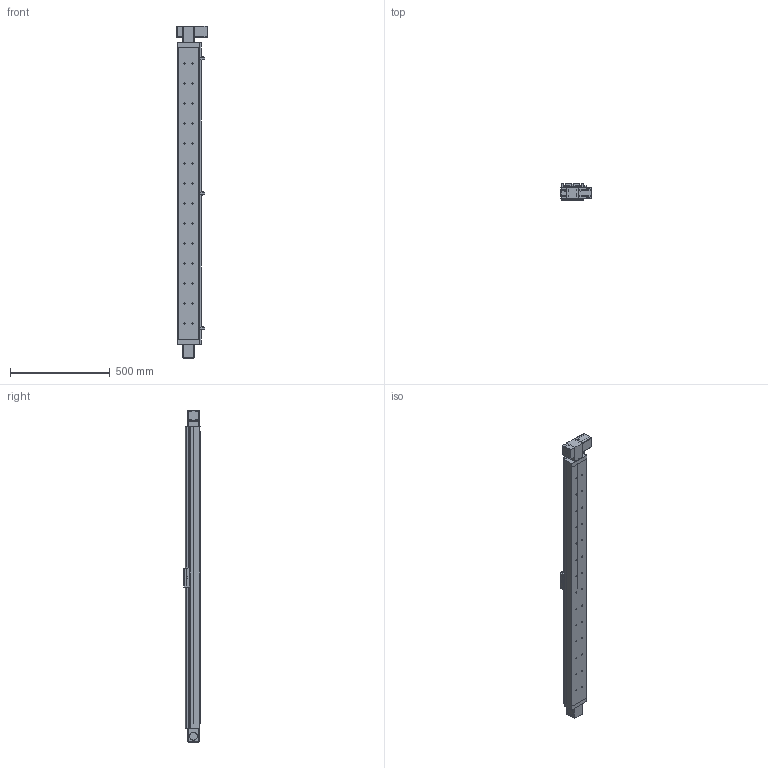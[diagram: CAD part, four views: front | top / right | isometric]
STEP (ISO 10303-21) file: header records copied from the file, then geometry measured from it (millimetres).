
FILE_DESCRIPTION((''),'2;1');
FILE_NAME('E:\uia actuator\UIA actuator 3d- 2015\Belt drive actuator\UIA110BR12(15)DC\UIA110BR12(15)DC-STEP FILE\UIA110BR12(15) stp file 13May16\UIA110BR12(15)DC-1350-M23-P13-C10-S.stp','2016-05-16T09:36:07',('h029'),(''),'Autodesk Inventor 11','Autodesk Inventor 11','');
FILE_SCHEMA(('AUTOMOTIVE_DESIGN { 1 0 10303 214 1 1 1 1 }'));
Length unit declared in the file: millimetre
Products named in the file (11): UIA110BR12(15)DC-1350; UIA110BR12(15)DC-1350-body; UIA110BR12(15)DC-1350-Sensor rail; UIA110B-Carriage; UIA110B- Sensor Flag; UIA110B-Cover; SOH-32C; SOH-32C-3; SOH-32C-1; SOH-32C-2; Motor mount
Assembly tree (10 placements, depth 3):
  UIA110BR12(15)DC-1350
    UIA110BR12(15)DC-1350-body
    UIA110BR12(15)DC-1350-Sensor rail
    UIA110B-Carriage
    UIA110B- Sensor Flag
    UIA110B-Cover
    SOH-32C
      SOH-32C-3
      SOH-32C-1
      SOH-32C-2
    Motor mount
Bounding box: 152 x 81 x 1661 mm (x, y, z)
Volume: 4820516.1 mm3; surface area: 1430856.1 mm2
Topology: 9 solids, 13 shells, 788 faces, 2218 edges, 1416 vertices
Faces by surface type: plane 487, cylinder 211, cone 42, bspline 40, sphere 8
Full cylindrical faces by diameter (mm): 2.459 x4, 3 x2, 3.242 x8, 3.5 x4, 4 x10, 4.5 x4, 4.917 x8, 5 x2, 6.35 x1, 6.5 x28, 7.5 x4, 10 x3, 11 x28, 12 x1, 20 x2, 32 x3, 37 x1, 38.1 x1, 39 x2, 43.5 x1, 46 x2
Entity records: 26698 total; most frequent: CARTESIAN_POINT 7029, DIRECTION 4023, ORIENTED_EDGE 3822, EDGE_CURVE 1911, AXIS2_PLACEMENT_3D 1396, VERTEX_POINT 1312, VECTOR 1231, LINE 1231
